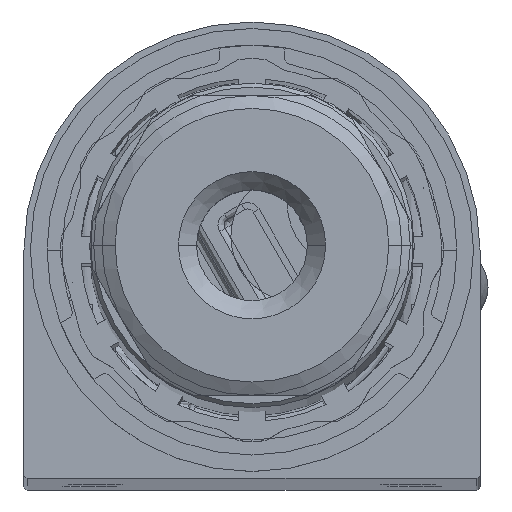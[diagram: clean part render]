
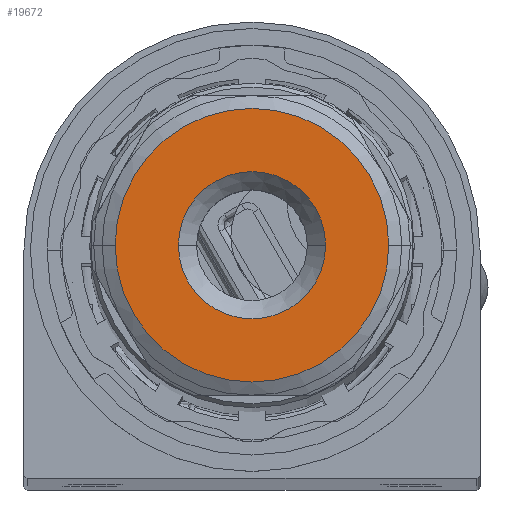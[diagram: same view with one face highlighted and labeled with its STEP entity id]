
A CAD part, top view. The second image highlights one B-rep face of the part: STEP entity #19672.
In plain terms, the highlighted planar face has unit normal (0, 0, 1).
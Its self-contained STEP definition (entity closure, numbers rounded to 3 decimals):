
#3201 = DIRECTION ( 'NONE',  ( 1., 0., 0. ) ) ;
#4936 = ORIENTED_EDGE ( 'NONE', *, *, #63332, .T. ) ;
#10502 = CIRCLE ( 'NONE', #54040, 5.65 ) ;
#15245 = VERTEX_POINT ( 'NONE', #73906 ) ;
#19672 = ADVANCED_FACE ( 'NONE', ( #38250, #39796 ), #62031, .T. ) ;
#20183 = EDGE_LOOP ( 'NONE', ( #45741, #56395 ) ) ;
#20299 = AXIS2_PLACEMENT_3D ( 'NONE', #27397, #34391, #74926 ) ;
#20710 = CARTESIAN_POINT ( 'NONE',  ( -0.569, -2.721, 1466.8 ) ) ;
#20770 = VERTEX_POINT ( 'NONE', #25331 ) ;
#20925 = DIRECTION ( 'NONE',  ( 1., 0., 0. ) ) ;
#23339 = EDGE_CURVE ( 'NONE', #29999, #20770, #10502, .T. ) ;
#23526 = DIRECTION ( 'NONE',  ( 0., 0., 1. ) ) ;
#24428 = CARTESIAN_POINT ( 'NONE',  ( -11.069, -2.721, 1466.8 ) ) ;
#25331 = CARTESIAN_POINT ( 'NONE',  ( -6.219, -2.721, 1466.8 ) ) ;
#26066 = CIRCLE ( 'NONE', #43464, 10.5 ) ;
#26127 = DIRECTION ( 'NONE',  ( 1., 0., 0. ) ) ;
#27397 = CARTESIAN_POINT ( 'NONE',  ( -0.569, -2.721, 1466.8 ) ) ;
#29847 = EDGE_CURVE ( 'NONE', #15245, #53547, #26066, .T. ) ;
#29999 = VERTEX_POINT ( 'NONE', #42749 ) ;
#34391 = DIRECTION ( 'NONE',  ( 0., 0., -1. ) ) ;
#37312 = AXIS2_PLACEMENT_3D ( 'NONE', #58614, #23526, #20925 ) ;
#38250 = FACE_BOUND ( 'NONE', #71688, .T. ) ;
#39796 = FACE_OUTER_BOUND ( 'NONE', #20183, .T. ) ;
#42749 = CARTESIAN_POINT ( 'NONE',  ( 5.081, -2.721, 1466.8 ) ) ;
#43464 = AXIS2_PLACEMENT_3D ( 'NONE', #66319, #60497, #49928 ) ;
#45741 = ORIENTED_EDGE ( 'NONE', *, *, #75030, .T. ) ;
#49928 = DIRECTION ( 'NONE',  ( 1., 0., 0. ) ) ;
#52957 = ORIENTED_EDGE ( 'NONE', *, *, #23339, .T. ) ;
#53547 = VERTEX_POINT ( 'NONE', #24428 ) ;
#54040 = AXIS2_PLACEMENT_3D ( 'NONE', #56479, #68194, #26127 ) ;
#56395 = ORIENTED_EDGE ( 'NONE', *, *, #29847, .T. ) ;
#56479 = CARTESIAN_POINT ( 'NONE',  ( -0.569, -2.721, 1466.8 ) ) ;
#57627 = CIRCLE ( 'NONE', #20299, 5.65 ) ;
#58614 = CARTESIAN_POINT ( 'NONE',  ( -0.569, -2.721, 1466.8 ) ) ;
#60497 = DIRECTION ( 'NONE',  ( 0., 0., 1. ) ) ;
#62031 = PLANE ( 'NONE',  #72764 ) ;
#63332 = EDGE_CURVE ( 'NONE', #20770, #29999, #57627, .T. ) ;
#64674 = CIRCLE ( 'NONE', #37312, 10.5 ) ;
#66319 = CARTESIAN_POINT ( 'NONE',  ( -0.569, -2.721, 1466.8 ) ) ;
#68194 = DIRECTION ( 'NONE',  ( 0., 0., -1. ) ) ;
#69034 = DIRECTION ( 'NONE',  ( 0., 0., 1. ) ) ;
#71688 = EDGE_LOOP ( 'NONE', ( #52957, #4936 ) ) ;
#72764 = AXIS2_PLACEMENT_3D ( 'NONE', #20710, #69034, #3201 ) ;
#73906 = CARTESIAN_POINT ( 'NONE',  ( 9.931, -2.721, 1466.8 ) ) ;
#74926 = DIRECTION ( 'NONE',  ( 1., 0., 0. ) ) ;
#75030 = EDGE_CURVE ( 'NONE', #53547, #15245, #64674, .T. ) ;
